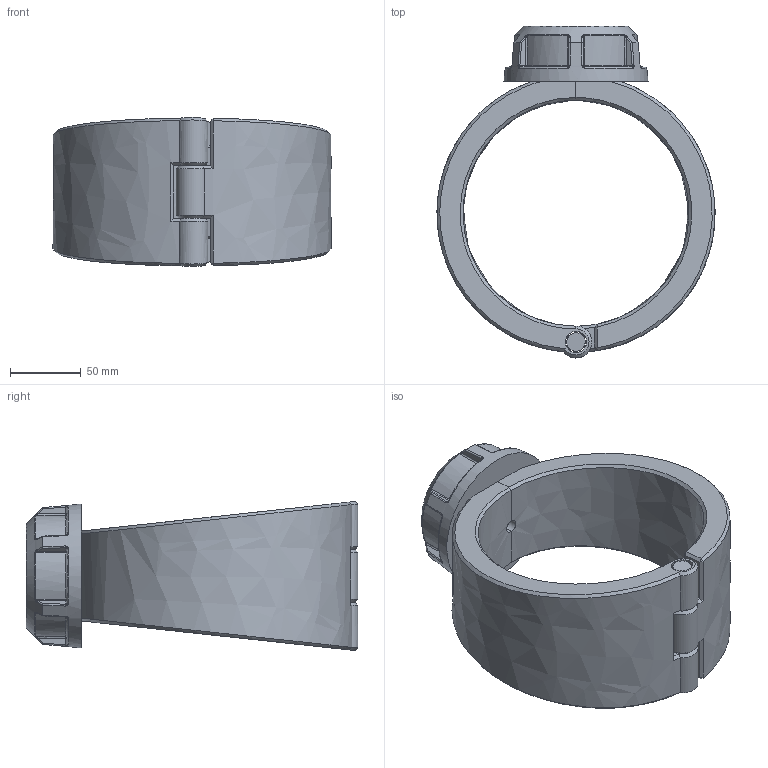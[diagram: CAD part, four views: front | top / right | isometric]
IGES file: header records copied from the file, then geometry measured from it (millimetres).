
Global section: file name: 163000160005; native system: Autodesk Inventor 2019; preprocessor: unknown; author: comp2; date: 20220203.115109; units: millimetre
Bounding box: 196.98 x 235 x 105.57 mm (x, y, z)
Volume: 1088364.7 mm3; surface area: 154939.1 mm2
Topology: 4 solids, 4 shells, 203 faces, 486 edges, 293 vertices
Faces by surface type: bspline 203
